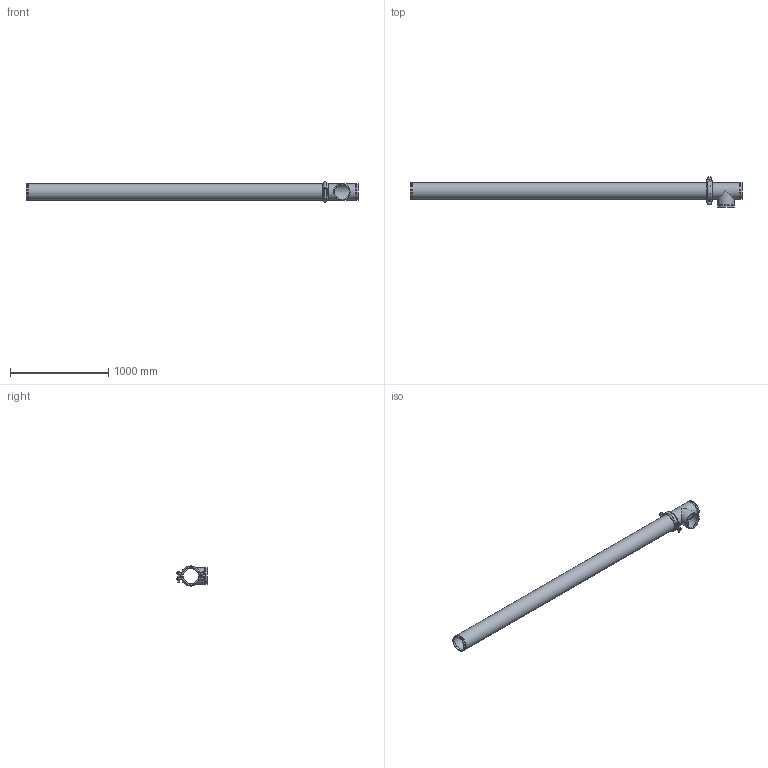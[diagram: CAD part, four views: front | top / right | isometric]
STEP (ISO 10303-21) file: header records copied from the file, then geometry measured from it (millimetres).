
FILE_DESCRIPTION(/* description */ ('VIC LONG RUN FITTING No R15 (OGS)','CAx-IF Rec.Pracs.---Representation and Presentation of Product Manufacturing Information (PMI)---4.0---2014-10-13'),/* implementation_level */ '2;1');
FILE_NAME(/* name */ 'C:\Users\Vjadhav\AppData\Roaming\Autodesk\ApplicationPlugins\Back Up\Victaulic_IPS_Long Run Fittings_No R15 (OGS)\Victaulic_IPS_Long Run Fittings_No R15 (OGS)_6 (150).stp',/* time_stamp */ '2020-10-06T19:04:11+06:00',/* author */ ('Vjadhav'),/* organization */ ('Victaulic'),/* preprocessor_version */ 'ST-DEVELOPER v17.2',/* originating_system */ 'Autodesk Inventor 2019',/* authorisation */ '');
FILE_SCHEMA (('AP242_MANAGED_MODEL_BASED_3D_ENGINEERING_MIM_LF { 1 0 10303 442 1 1 4 }'));
Length unit declared in the file: inch
Products named in the file (4): R15-06.0; 020-06.0; 107N-06.0; Pipe_R13-06.0
Assembly tree (3 placements, depth 2):
  R15-06.0
    020-06.0
    107N-06.0
    Pipe_R13-06.0
Bounding box: 3382.01 x 307.98 x 205.74 mm (x, y, z)
Volume: 13045086 mm3; surface area: 3630267.2 mm2
Topology: 3 solids, 3 shells, 154 faces, 389 edges, 264 vertices
Faces by surface type: plane 65, cylinder 61, bspline 16, torus 6, cone 4, sphere 2
Full cylindrical faces by diameter (mm): 15.875 x4, 27.381 x2, 154.051 x3, 155.575 x1, 163.957 x5, 168.275 x10
Entity records: 5551 total; most frequent: CARTESIAN_POINT 1370, DIRECTION 855, ORIENTED_EDGE 778, EDGE_CURVE 389, AXIS2_PLACEMENT_3D 341, VERTEX_POINT 264, EDGE_LOOP 189, LINE 173
